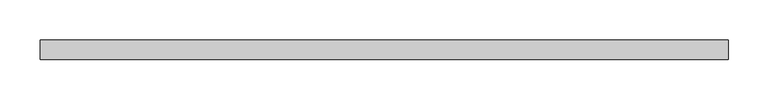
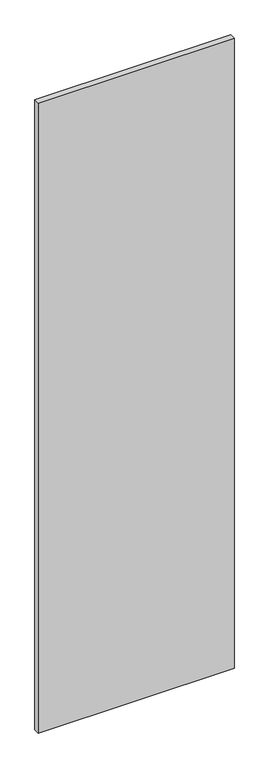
"""IFC4 building model written with IfcOpenShell, lengths in millimetres: plate geometry, Системная панель : ADSK_Cтеклопакет_25."""

from ifc_helpers import new_model, si_unit, origin, origin_with_axes, place, context, project, spatial, polyline, outline, extrude, source, transform, mapped, element, save


def plate_adcc6613(model_context):
    return source(origin(), model_context, "Body", "SweptSolid", [
        extrude(outline(polyline([(430.0, -12.5), (-430.0, -12.5), (-430.0, 12.5), (430.0, 12.5), (430.0, -12.5)])), origin_with_axes(), (0.0, 0.0, 1.0), 2925.0),
    ])


if __name__ == "__main__":
    model = new_model("IFC4")
    model_context = context("Model", 3, world=origin())
    ifc_project = project(units=[si_unit("LENGTHUNIT", "METRE", prefix="MILLI")], contexts=[model_context])
    site = spatial("IfcSite", under=ifc_project)
    building = spatial("IfcBuilding", under=site)
    placement = place(None, origin())
    plate_shape = plate_adcc6613(model_context)
    element("IfcPlate", 1, ObjectType="Системная панель : ADSK_Cтеклопакет_25", at=placement, inside=building, context=model_context, shape_type="MappedRepresentation", body=[
        mapped(plate_shape, transform((0.0, 0.0, 0.0), x_axis=(1.0, 0.0, 0.0), y_axis=(0.0, 1.0, 0.0), z_axis=(0.0, 0.0, 1.0))),
    ])
    save(model, "model.ifc")
